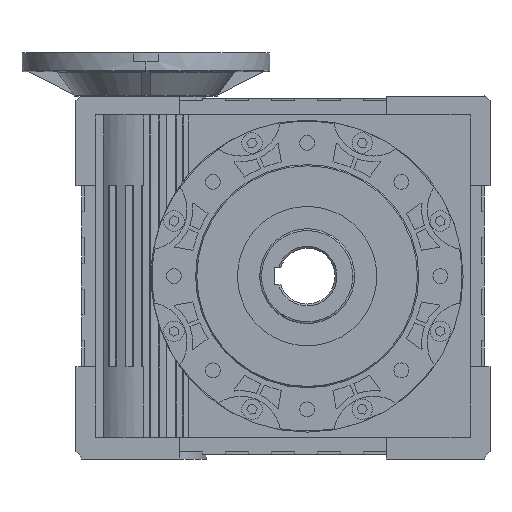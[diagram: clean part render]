
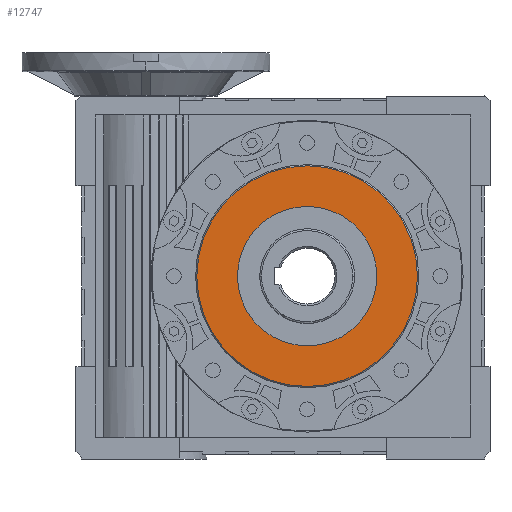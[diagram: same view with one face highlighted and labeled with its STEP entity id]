
A CAD part, left-side view. The second image highlights one B-rep face of the part: STEP entity #12747.
In plain terms, the highlighted planar face has unit normal (-1, 0, 0).
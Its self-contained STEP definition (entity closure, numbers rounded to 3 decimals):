
#810 = AXIS2_PLACEMENT_3D ( 'NONE', #17937, #17938, #17940 ) ;
#812 = AXIS2_PLACEMENT_3D ( 'NONE', #17951, #17952, #17954 ) ;
#871 = AXIS2_PLACEMENT_3D ( 'NONE', #18527, #18529, #18530 ) ;
#874 = AXIS2_PLACEMENT_3D ( 'NONE', #18552, #18553, #18554 ) ;
#6624 = EDGE_LOOP ( 'NONE', ( #32391, #32393 ) ) ;
#6630 = EDGE_LOOP ( 'NONE', ( #32387, #32389 ) ) ;
#12747 = ADVANCED_FACE ( 'NONE', ( #26110, #26116 ), #15216, .T. ) ;
#15213 = CARTESIAN_POINT ( 'NONE',  ( -85., 0., 0. ) ) ;
#15216 = PLANE ( 'NONE',  #26788 ) ;
#15218 = DIRECTION ( 'NONE',  ( -1., 0., 0. ) ) ;
#15219 = DIRECTION ( 'NONE',  ( 0., -1., 0. ) ) ;
#16296 = CIRCLE ( 'NONE', #810, 89. ) ;
#16298 = CIRCLE ( 'NONE', #812, 56.25 ) ;
#16502 = CIRCLE ( 'NONE', #871, 89. ) ;
#16512 = CIRCLE ( 'NONE', #874, 56.25 ) ;
#17937 = CARTESIAN_POINT ( 'NONE',  ( -85., 0., 0. ) ) ;
#17938 = DIRECTION ( 'NONE',  ( -1., 0., 0. ) ) ;
#17940 = DIRECTION ( 'NONE',  ( 0., 1., 0. ) ) ;
#17951 = CARTESIAN_POINT ( 'NONE',  ( -85., 0., 0. ) ) ;
#17952 = DIRECTION ( 'NONE',  ( 1., 0., 0. ) ) ;
#17954 = DIRECTION ( 'NONE',  ( 0., 0., 1. ) ) ;
#18527 = CARTESIAN_POINT ( 'NONE',  ( -85., 0., 0. ) ) ;
#18529 = DIRECTION ( 'NONE',  ( -1., 0., 0. ) ) ;
#18530 = DIRECTION ( 'NONE',  ( 0., 1., 0. ) ) ;
#18552 = CARTESIAN_POINT ( 'NONE',  ( -85., 0., 0. ) ) ;
#18553 = DIRECTION ( 'NONE',  ( 1., 0., 0. ) ) ;
#18554 = DIRECTION ( 'NONE',  ( 0., 0., 1. ) ) ;
#19548 = CARTESIAN_POINT ( 'NONE',  ( -85., 0., -56.25 ) ) ;
#19550 = CARTESIAN_POINT ( 'NONE',  ( -85., -89., 0. ) ) ;
#19556 = CARTESIAN_POINT ( 'NONE',  ( -85., 89., 0. ) ) ;
#19608 = CARTESIAN_POINT ( 'NONE',  ( -85., 0., 56.25 ) ) ;
#23495 = EDGE_CURVE ( 'NONE', #27593, #27590, #16296, .T. ) ;
#23499 = EDGE_CURVE ( 'NONE', #27589, #27619, #16298, .T. ) ;
#23705 = EDGE_CURVE ( 'NONE', #27590, #27593, #16502, .T. ) ;
#23716 = EDGE_CURVE ( 'NONE', #27619, #27589, #16512, .T. ) ;
#26110 = FACE_OUTER_BOUND ( 'NONE', #6630, .T. ) ;
#26116 = FACE_BOUND ( 'NONE', #6624, .T. ) ;
#26788 = AXIS2_PLACEMENT_3D ( 'NONE', #15213, #15218, #15219 ) ;
#27589 = VERTEX_POINT ( 'NONE', #19548 ) ;
#27590 = VERTEX_POINT ( 'NONE', #19550 ) ;
#27593 = VERTEX_POINT ( 'NONE', #19556 ) ;
#27619 = VERTEX_POINT ( 'NONE', #19608 ) ;
#32387 = ORIENTED_EDGE ( 'NONE', *, *, #23495, .T. ) ;
#32389 = ORIENTED_EDGE ( 'NONE', *, *, #23705, .T. ) ;
#32391 = ORIENTED_EDGE ( 'NONE', *, *, #23716, .T. ) ;
#32393 = ORIENTED_EDGE ( 'NONE', *, *, #23499, .T. ) ;
